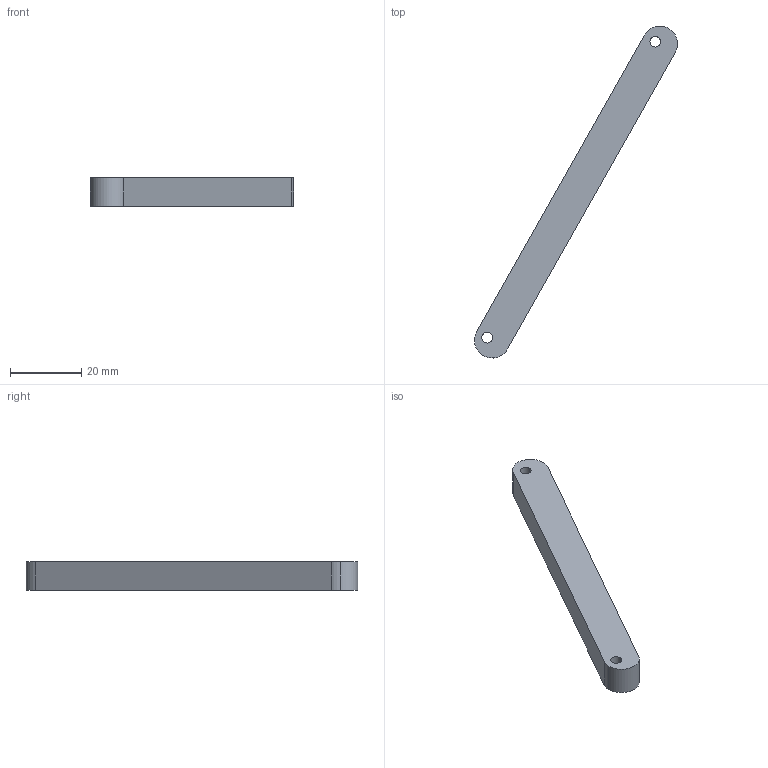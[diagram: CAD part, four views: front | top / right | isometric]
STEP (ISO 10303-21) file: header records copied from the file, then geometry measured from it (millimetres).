
FILE_DESCRIPTION (( 'STEP AP203' ), '1' );
FILE_NAME ('Part4-end effector_Default_sldprt.STEP', '2025-01-16T15:44:48', ( '' ), ( '' ), 'SwSTEP 2.0', 'SolidWorks 2020', '' );
FILE_SCHEMA (( 'CONFIG_CONTROL_DESIGN' ));
Length unit declared in the file: millimetre
Products named in the file (1): Part4-end effector_Default_sldprt
Bounding box: 57.02 x 93.14 x 8 mm (x, y, z)
Volume: 8154.8 mm3; surface area: 3971.1 mm2
Topology: 1 solids, 1 shells, 11 faces, 27 edges, 18 vertices
Faces by surface type: cylinder 7, plane 4
Entity records: 420 total; most frequent: DIRECTION 65, CARTESIAN_POINT 57, ORIENTED_EDGE 54, EDGE_CURVE 27, AXIS2_PLACEMENT_3D 26, VERTEX_POINT 18, EDGE_LOOP 15, CIRCLE 14
